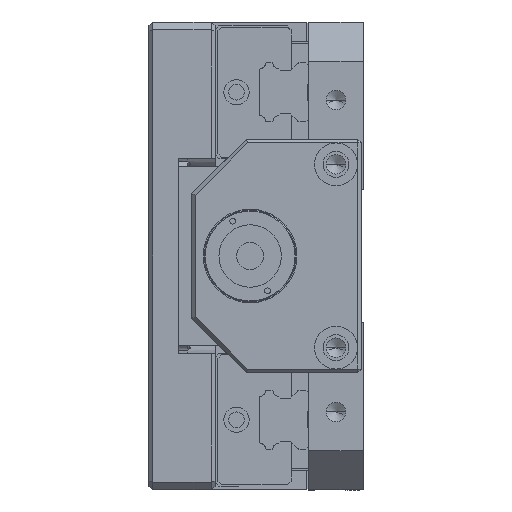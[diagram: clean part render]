
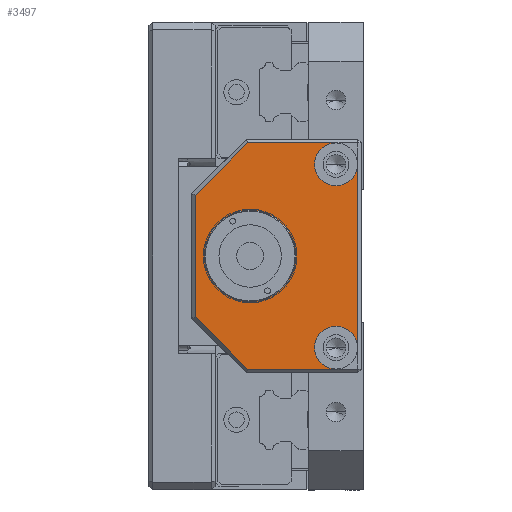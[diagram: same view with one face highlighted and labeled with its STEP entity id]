
A CAD part, left-side view. The second image highlights one B-rep face of the part: STEP entity #3497.
In plain terms, the highlighted planar face has unit normal (-1, 0, 0).
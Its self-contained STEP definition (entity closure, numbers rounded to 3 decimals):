
#2634 = EDGE_CURVE ( 'NONE', #81132, #29241, #54226, .T. ) ;
#3497 = ADVANCED_FACE ( 'NONE', ( #83791, #77029 ), #11677, .F. ) ;
#3509 = VERTEX_POINT ( 'NONE', #55986 ) ;
#3627 = ORIENTED_EDGE ( 'NONE', *, *, #48430, .F. ) ;
#3682 = VERTEX_POINT ( 'NONE', #13206 ) ;
#4690 = CIRCLE ( 'NONE', #52115, 5.5 ) ;
#4825 = VECTOR ( 'NONE', #27982, 1000. ) ;
#5777 = CARTESIAN_POINT ( 'NONE',  ( -60.784, 215.02, 385.065 ) ) ;
#6508 = EDGE_CURVE ( 'NONE', #15195, #54804, #36860, .T. ) ;
#7110 = EDGE_CURVE ( 'NONE', #24097, #50186, #19770, .T. ) ;
#7281 = VECTOR ( 'NONE', #58161, 1000. ) ;
#7392 = ORIENTED_EDGE ( 'NONE', *, *, #32796, .F. ) ;
#8449 = EDGE_CURVE ( 'NONE', #48327, #81132, #86565, .T. ) ;
#8812 = CARTESIAN_POINT ( 'NONE',  ( -60.784, 242.52, 356.065 ) ) ;
#9749 = DIRECTION ( 'NONE',  ( -1., 0., 0. ) ) ;
#10751 = DIRECTION ( 'NONE',  ( 0., -1., 0. ) ) ;
#10862 = AXIS2_PLACEMENT_3D ( 'NONE', #63748, #71011, #56210 ) ;
#11677 = PLANE ( 'NONE',  #44766 ) ;
#11914 = CARTESIAN_POINT ( 'NONE',  ( -60.784, 226.02, 332.565 ) ) ;
#11964 = ORIENTED_EDGE ( 'NONE', *, *, #82164, .F. ) ;
#12145 = CARTESIAN_POINT ( 'NONE',  ( -60.784, 215.02, 356.065 ) ) ;
#12613 = CARTESIAN_POINT ( 'NONE',  ( -60.784, 235.77, 327.065 ) ) ;
#13206 = CARTESIAN_POINT ( 'NONE',  ( -60.784, 243.106, 385.065 ) ) ;
#14107 = EDGE_LOOP ( 'NONE', ( #76635, #17529, #23003, #11964, #33280, #80070, #21385, #66413, #76862, #7392 ) ) ;
#15195 = VERTEX_POINT ( 'NONE', #64122 ) ;
#17038 = LINE ( 'NONE', #86951, #43986 ) ;
#17529 = ORIENTED_EDGE ( 'NONE', *, *, #73809, .F. ) ;
#19187 = VECTOR ( 'NONE', #26614, 1000. ) ;
#19770 = CIRCLE ( 'NONE', #60731, 11.75 ) ;
#21385 = ORIENTED_EDGE ( 'NONE', *, *, #35292, .F. ) ;
#22410 = DIRECTION ( 'NONE',  ( 0., -0.707, 0.707 ) ) ;
#23003 = ORIENTED_EDGE ( 'NONE', *, *, #6508, .F. ) ;
#24080 = AXIS2_PLACEMENT_3D ( 'NONE', #82780, #32719, #10751 ) ;
#24097 = VERTEX_POINT ( 'NONE', #48297 ) ;
#26414 = DIRECTION ( 'NONE',  ( 1., 0., 0. ) ) ;
#26614 = DIRECTION ( 'NONE',  ( 0., -1., 0. ) ) ;
#27982 = DIRECTION ( 'NONE',  ( 0., 1., 0. ) ) ;
#28404 = DIRECTION ( 'NONE',  ( 0., -1., 0. ) ) ;
#29241 = VERTEX_POINT ( 'NONE', #55273 ) ;
#31114 = DIRECTION ( 'NONE',  ( 0., 0., -1. ) ) ;
#31604 = AXIS2_PLACEMENT_3D ( 'NONE', #41675, #78796, #28404 ) ;
#32719 = DIRECTION ( 'NONE',  ( -1., 0., 0. ) ) ;
#32796 = EDGE_CURVE ( 'NONE', #3509, #48327, #4690, .T. ) ;
#33280 = ORIENTED_EDGE ( 'NONE', *, *, #73950, .F. ) ;
#33989 = CIRCLE ( 'NONE', #31604, 5.5 ) ;
#35292 = EDGE_CURVE ( 'NONE', #29241, #60183, #38727, .T. ) ;
#36007 = DIRECTION ( 'NONE',  ( 0., 0., 1. ) ) ;
#36860 = CIRCLE ( 'NONE', #61291, 5.5 ) ;
#37558 = EDGE_CURVE ( 'NONE', #60183, #45680, #68463, .T. ) ;
#38727 = LINE ( 'NONE', #65675, #7281 ) ;
#39112 = CARTESIAN_POINT ( 'NONE',  ( -60.784, 226.02, 379.565 ) ) ;
#39321 = CARTESIAN_POINT ( 'NONE',  ( -60.784, 256.52, 371.651 ) ) ;
#40811 = CARTESIAN_POINT ( 'NONE',  ( -60.784, 235.77, 385.065 ) ) ;
#41675 = CARTESIAN_POINT ( 'NONE',  ( -60.784, 220.52, 379.565 ) ) ;
#42935 = EDGE_CURVE ( 'NONE', #50378, #3509, #49282, .T. ) ;
#43986 = VECTOR ( 'NONE', #22410, 1000. ) ;
#44421 = DIRECTION ( 'NONE',  ( -1., 0., 0. ) ) ;
#44766 = AXIS2_PLACEMENT_3D ( 'NONE', #5777, #26414, #77107 ) ;
#45680 = VERTEX_POINT ( 'NONE', #39321 ) ;
#48297 = CARTESIAN_POINT ( 'NONE',  ( -60.784, 242.52, 367.815 ) ) ;
#48327 = VERTEX_POINT ( 'NONE', #11914 ) ;
#48430 = EDGE_CURVE ( 'NONE', #50186, #24097, #71836, .T. ) ;
#49282 = LINE ( 'NONE', #12145, #50444 ) ;
#50186 = VERTEX_POINT ( 'NONE', #92511 ) ;
#50378 = VERTEX_POINT ( 'NONE', #64155 ) ;
#50444 = VECTOR ( 'NONE', #62117, 1000. ) ;
#52115 = AXIS2_PLACEMENT_3D ( 'NONE', #58770, #9749, #73263 ) ;
#54226 = LINE ( 'NONE', #12613, #4825 ) ;
#54804 = VERTEX_POINT ( 'NONE', #39112 ) ;
#55273 = CARTESIAN_POINT ( 'NONE',  ( -60.784, 243.106, 327.065 ) ) ;
#55986 = CARTESIAN_POINT ( 'NONE',  ( -60.784, 215.02, 332.565 ) ) ;
#56210 = DIRECTION ( 'NONE',  ( 0., 0., -1. ) ) ;
#58161 = DIRECTION ( 'NONE',  ( 0., 0.707, 0.707 ) ) ;
#58770 = CARTESIAN_POINT ( 'NONE',  ( -60.784, 220.52, 332.565 ) ) ;
#59416 = VECTOR ( 'NONE', #36007, 1000. ) ;
#59437 = ORIENTED_EDGE ( 'NONE', *, *, #7110, .F. ) ;
#60183 = VERTEX_POINT ( 'NONE', #92780 ) ;
#60731 = AXIS2_PLACEMENT_3D ( 'NONE', #8812, #73596, #31114 ) ;
#61291 = AXIS2_PLACEMENT_3D ( 'NONE', #66147, #44421, #66448 ) ;
#62117 = DIRECTION ( 'NONE',  ( 0., 0., -1. ) ) ;
#63687 = CARTESIAN_POINT ( 'NONE',  ( -60.784, 256.52, 356.065 ) ) ;
#63748 = CARTESIAN_POINT ( 'NONE',  ( -60.784, 242.52, 356.065 ) ) ;
#64122 = CARTESIAN_POINT ( 'NONE',  ( -60.784, 220.52, 385.065 ) ) ;
#64155 = CARTESIAN_POINT ( 'NONE',  ( -60.784, 215.02, 379.565 ) ) ;
#65675 = CARTESIAN_POINT ( 'NONE',  ( -60.784, 256.897, 340.856 ) ) ;
#66147 = CARTESIAN_POINT ( 'NONE',  ( -60.784, 220.52, 379.565 ) ) ;
#66413 = ORIENTED_EDGE ( 'NONE', *, *, #2634, .F. ) ;
#66448 = DIRECTION ( 'NONE',  ( 0., -1., 0. ) ) ;
#68463 = LINE ( 'NONE', #63687, #59416 ) ;
#71011 = DIRECTION ( 'NONE',  ( -1., 0., 0. ) ) ;
#71836 = CIRCLE ( 'NONE', #10862, 11.75 ) ;
#73263 = DIRECTION ( 'NONE',  ( 0., -1., 0. ) ) ;
#73596 = DIRECTION ( 'NONE',  ( -1., 0., 0. ) ) ;
#73809 = EDGE_CURVE ( 'NONE', #54804, #50378, #33989, .T. ) ;
#73950 = EDGE_CURVE ( 'NONE', #45680, #3682, #17038, .T. ) ;
#76635 = ORIENTED_EDGE ( 'NONE', *, *, #42935, .F. ) ;
#76862 = ORIENTED_EDGE ( 'NONE', *, *, #8449, .F. ) ;
#77029 = FACE_OUTER_BOUND ( 'NONE', #14107, .T. ) ;
#77107 = DIRECTION ( 'NONE',  ( 0., 0., -1. ) ) ;
#78796 = DIRECTION ( 'NONE',  ( -1., 0., 0. ) ) ;
#80070 = ORIENTED_EDGE ( 'NONE', *, *, #37558, .F. ) ;
#81132 = VERTEX_POINT ( 'NONE', #88164 ) ;
#82164 = EDGE_CURVE ( 'NONE', #3682, #15195, #83429, .T. ) ;
#82780 = CARTESIAN_POINT ( 'NONE',  ( -60.784, 220.52, 332.565 ) ) ;
#83429 = LINE ( 'NONE', #40811, #19187 ) ;
#83791 = FACE_BOUND ( 'NONE', #84985, .T. ) ;
#84985 = EDGE_LOOP ( 'NONE', ( #3627, #59437 ) ) ;
#86565 = CIRCLE ( 'NONE', #24080, 5.5 ) ;
#86951 = CARTESIAN_POINT ( 'NONE',  ( -60.784, 242.729, 385.442 ) ) ;
#88164 = CARTESIAN_POINT ( 'NONE',  ( -60.784, 220.52, 327.065 ) ) ;
#92511 = CARTESIAN_POINT ( 'NONE',  ( -60.784, 242.52, 344.315 ) ) ;
#92780 = CARTESIAN_POINT ( 'NONE',  ( -60.784, 256.52, 340.479 ) ) ;
